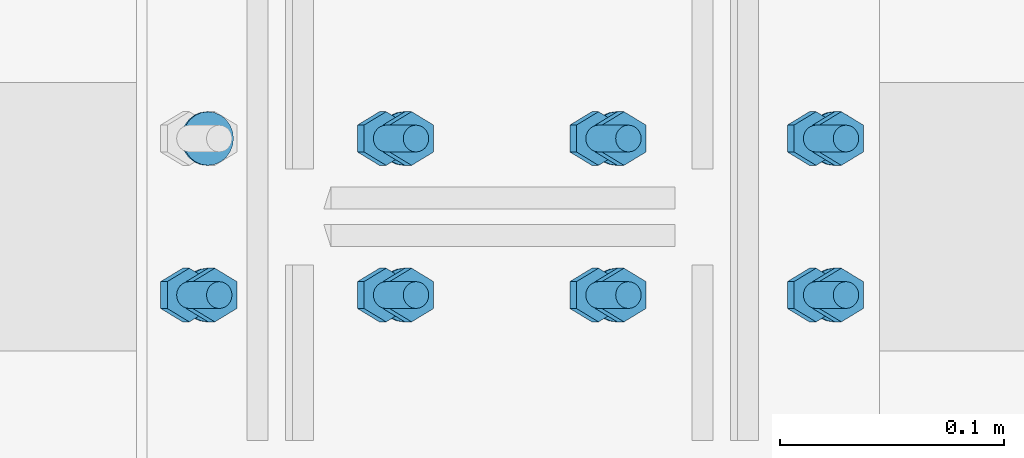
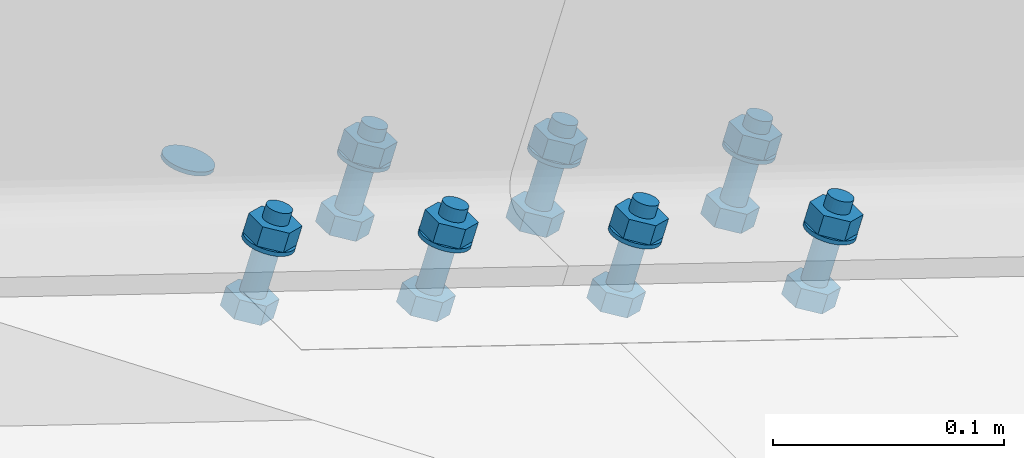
# One storey, part 32 of 53: 29 mechanical fasteners.
"""IFC4 building model written with IfcOpenShell, lengths in metres."""

from ifc_helpers import new_model, si_unit, frame, origin_with_axes, place, context, project, spatial, polyline, outline, extrude, type_object, element, save


model = new_model("IFC4")

# Units and contexts
model_context = context("Model", 3, precision=1e-05, world=origin_with_axes())
ifc_project = project(units=[si_unit("LENGTHUNIT", "METRE"), si_unit("AREAUNIT", "SQUARE_METRE"), si_unit("VOLUMEUNIT", "CUBIC_METRE"), si_unit("MASSUNIT", "GRAM", prefix="KILO"), si_unit("TIMEUNIT", "SECOND"), si_unit("PLANEANGLEUNIT", "RADIAN"), si_unit("SOLIDANGLEUNIT", "STERADIAN"), si_unit("THERMODYNAMICTEMPERATUREUNIT", "DEGREE_CELSIUS")], contexts=[model_context])

# Site, building, storey
placement_1 = place(None, origin_with_axes())
site = spatial("IfcSite", under=ifc_project, at=placement_1, Name="Italia", CompositionType="ELEMENT")
building = spatial("IfcBuilding", under=site, at=placement_1, Name="Capannone", CompositionType="ELEMENT")
storey_placement = place(None, frame((0.0, 0.0, 5.550000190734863), z_axis=(0.0, 0.0, 1.0), x_axis=(1.0, 0.0, 0.0)))
storey = spatial("IfcBuildingStorey", under=building, at=storey_placement, Name="Storey 1", CompositionType="ELEMENT", Elevation=5.550000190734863)

# Mechanical fasteners
mechanical_fastener_type_1 = type_object("IfcMechanicalFastenerType", Name="Collegamenti 0102_0002 0104_0004 0106_0006 0108_0008 0110_0010 0112_0012", PredefinedType="BOLT")
placement_2 = place(placement_1, origin_with_axes())
mechanical_fastener_1_placement = place(placement_2, origin_with_axes())
element("IfcMechanicalFastener", 1, at=mechanical_fastener_1_placement, inside=storey, type_object=mechanical_fastener_type_1, Name="Collegamenti 0102_0002 0104_0004 0106_0006 0108_0008 0110_0010 0112_0012", NominalDiameter=0.024, context=model_context, shape_type="SweptSolid", body=[
    extrude(outline(polyline([(0.0, 0.0), (-0.000409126, -0.00310612), (-0.00160789, -0.00600052), (-0.00351477, -0.00848484), (-0.00600004, -0.0103931), (-0.00889444, -0.011591), (-0.0120001, -0.0120001), (-0.0151057, -0.011591), (-0.0180001, -0.0103931), (-0.0204854, -0.00848484), (-0.0223923, -0.00600052), (-0.023591, -0.00310612), (-0.0240002, 0.0), (-0.023591, 0.00310516), (-0.0223923, 0.00599957), (-0.0204854, 0.00848484), (-0.0180001, 0.0103922), (-0.0151057, 0.01159), (-0.0120001, 0.0119991), (-0.00889444, 0.01159), (-0.00600004, 0.0103922), (-0.00351477, 0.00848484), (-0.00160789, 0.00599957), (-0.000409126, 0.00310516), (0.0, 0.0)])), frame((13.8682, 6.023, 5.60572), z_axis=(-0.312362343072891, 0.0, -0.94996303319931), x_axis=(0.0, -1.0, 0.0)), (0.0, 0.0, 1.0), 0.00199978),
])
mechanical_fastener_type_2 = type_object("IfcMechanicalFastenerType", Name="Collegamenti 0102_0002 0104_0004 0106_0006 0108_0008 0110_0010 0112_0012", PredefinedType="BOLT")
mechanical_fastener_2_placement = place(placement_2, origin_with_axes())
element("IfcMechanicalFastener", 2, at=mechanical_fastener_2_placement, inside=storey, type_object=mechanical_fastener_type_2, Name="Collegamenti 0102_0002 0104_0004 0106_0006 0108_0008 0110_0010 0112_0012", NominalDiameter=0.0120001, context=model_context, shape_type="SweptSolid", body=[
    extrude(outline(polyline([(0.0, 0.0), (-0.0120001, 0.0), (-0.0180001, 0.0103931), (-0.0120001, 0.0207853), (0.0, 0.0207853), (0.00600004, 0.0103931), (0.0, 0.0)])), frame((13.8697, 5.959, 5.57702), z_axis=(-0.312231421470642, 0.0, -0.950006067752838), x_axis=(0.0, -1.0, 0.0)), (0.0, 0.0, 1.0), 0.00959993),
])
mechanical_fastener_type_3 = type_object("IfcMechanicalFastenerType", Name="Collegamenti 0102_0002 0104_0004 0106_0006 0108_0008 0110_0010 0112_0012", PredefinedType="BOLT")
mechanical_fastener_3_placement = place(placement_2, origin_with_axes())
element("IfcMechanicalFastener", 3, at=mechanical_fastener_3_placement, inside=storey, type_object=mechanical_fastener_type_3, Name="Collegamenti 0102_0002 0104_0004 0106_0006 0108_0008 0110_0010 0112_0012", NominalDiameter=0.012, context=model_context, shape_type="SweptSolid", body=[
    extrude(outline(polyline([(0.0, 0.0), (-0.000204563, -0.00155354), (-0.000803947, -0.00300121), (-0.00175762, -0.0042429), (-0.00300026, -0.00519562), (-0.00444698, -0.00579548), (-0.00600004, -0.00599957), (-0.0075531, -0.00579548), (-0.00899982, -0.00519562), (-0.0102425, -0.0042429), (-0.0111961, -0.00300121), (-0.0117955, -0.00155354), (-0.0120001, 0.0), (-0.0117955, 0.00155258), (-0.0111961, 0.00300026), (-0.0102425, 0.00424194), (-0.00899982, 0.00519562), (-0.0075531, 0.00579548), (-0.00600004, 0.00599957), (-0.00444698, 0.00579548), (-0.00300026, 0.00519562), (-0.00175762, 0.00424194), (-0.000803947, 0.00300026), (-0.000204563, 0.00155258), (0.0, 0.0)])), frame((13.8732, 5.959, 5.62092), z_axis=(-0.312153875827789, 0.0, -0.950031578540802), x_axis=(0.0, -1.0, 0.0)), (0.0, 0.0, 1.0), 0.0427995),
])
mechanical_fastener_type_4 = type_object("IfcMechanicalFastenerType", Name="Collegamenti 0102_0002 0104_0004 0106_0006 0108_0008 0110_0010 0112_0012", PredefinedType="BOLT")
mechanical_fastener_4_placement = place(placement_2, origin_with_axes())
element("IfcMechanicalFastener", 4, at=mechanical_fastener_4_placement, inside=storey, type_object=mechanical_fastener_type_4, Name="Collegamenti 0102_0002 0104_0004 0106_0006 0108_0008 0110_0010 0112_0012", NominalDiameter=0.0119995, context=model_context, shape_type="SweptSolid", body=[
    extrude(outline(polyline([(0.0, 0.0), (-0.0120001, 0.0), (-0.0180001, 0.0103922), (-0.0120001, 0.0207844), (0.0, 0.0207844), (0.00600004, 0.0103922), (0.0, 0.0)])), frame((13.8811, 5.959, 5.6116), z_axis=(-0.312141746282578, 0.0, -0.950035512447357), x_axis=(0.0, -1.0, 0.0)), (0.0, 0.0, 1.0), 0.00959963),
])
mechanical_fastener_type_5 = type_object("IfcMechanicalFastenerType", Name="Collegamenti 0102_0002 0104_0004 0106_0006 0108_0008 0110_0010 0112_0012", PredefinedType="BOLT")
mechanical_fastener_5_placement = place(placement_2, origin_with_axes())
element("IfcMechanicalFastener", 5, at=mechanical_fastener_5_placement, inside=storey, type_object=mechanical_fastener_type_5, Name="Collegamenti 0102_0002 0104_0004 0106_0006 0108_0008 0110_0010 0112_0012", NominalDiameter=0.024, context=model_context, shape_type="SweptSolid", body=[
    extrude(outline(polyline([(0.0, 0.0), (-0.000409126, -0.00310612), (-0.00160789, -0.00600052), (-0.00351477, -0.00848484), (-0.00600004, -0.0103931), (-0.00889444, -0.011591), (-0.0120001, -0.0120001), (-0.0151057, -0.011591), (-0.0180001, -0.0103931), (-0.0204854, -0.00848484), (-0.0223923, -0.00600052), (-0.023591, -0.00310612), (-0.0240002, 0.0), (-0.023591, 0.00310516), (-0.0223923, 0.00599957), (-0.0204854, 0.00848484), (-0.0180001, 0.0103922), (-0.0151057, 0.01159), (-0.0120001, 0.0119991), (-0.00889444, 0.01159), (-0.00600004, 0.0103922), (-0.00351477, 0.00848484), (-0.00160789, 0.00599957), (-0.000409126, 0.00310516), (0.0, 0.0)])), frame((13.8682, 5.953, 5.60572), z_axis=(-0.312362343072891, 0.0, -0.94996303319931), x_axis=(0.0, -1.0, 0.0)), (0.0, 0.0, 1.0), 0.00199978),
])
mechanical_fastener_type_6 = type_object("IfcMechanicalFastenerType", Name="Collegamenti 0102_0002 0104_0004 0106_0006 0108_0008 0110_0010 0112_0012", PredefinedType="BOLT")
mechanical_fastener_6_placement = place(placement_2, origin_with_axes())
element("IfcMechanicalFastener", 6, at=mechanical_fastener_6_placement, inside=storey, type_object=mechanical_fastener_type_6, Name="Collegamenti 0102_0002 0104_0004 0106_0006 0108_0008 0110_0010 0112_0012", NominalDiameter=0.0119995, context=model_context, shape_type="SweptSolid", body=[
    extrude(outline(polyline([(0.0, 0.0), (-0.0120001, 0.0), (-0.0180001, 0.0103931), (-0.0120001, 0.0207844), (0.0, 0.0207844), (0.00600004, 0.0103931), (0.0, 0.0)])), frame((14.0527, 6.029, 5.5169), z_axis=(-0.312127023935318, 0.0, -0.950040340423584), x_axis=(0.0, -1.0, 0.0)), (0.0, 0.0, 1.0), 0.00960008),
])
mechanical_fastener_type_7 = type_object("IfcMechanicalFastenerType", Name="Collegamenti 0102_0002 0104_0004 0106_0006 0108_0008 0110_0010 0112_0012", PredefinedType="BOLT")
mechanical_fastener_7_placement = place(placement_2, origin_with_axes())
element("IfcMechanicalFastener", 7, at=mechanical_fastener_7_placement, inside=storey, type_object=mechanical_fastener_type_7, Name="Collegamenti 0102_0002 0104_0004 0106_0006 0108_0008 0110_0010 0112_0012", NominalDiameter=0.012, context=model_context, shape_type="SweptSolid", body=[
    extrude(outline(polyline([(0.0, 0.0), (-0.000204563, -0.00155258), (-0.000803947, -0.00300026), (-0.00175762, -0.00424194), (-0.00300026, -0.00519562), (-0.00444698, -0.00579453), (-0.00600004, -0.00599957), (-0.0075531, -0.00579453), (-0.00899982, -0.00519562), (-0.0102425, -0.00424194), (-0.0111961, -0.00300026), (-0.0117955, -0.00155258), (-0.0120001, 0.0), (-0.0117955, 0.00155354), (-0.0111961, 0.00300026), (-0.0102425, 0.00424194), (-0.00899982, 0.00519657), (-0.0075531, 0.00579548), (-0.00600004, 0.00600052), (-0.00444698, 0.00579548), (-0.00300026, 0.00519657), (-0.00175762, 0.00424194), (-0.000803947, 0.00300026), (-0.000204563, 0.00155354), (0.0, 0.0)])), frame((14.0562, 6.029, 5.5608), z_axis=(-0.312150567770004, 0.0, -0.950032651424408), x_axis=(0.0, -1.0, 0.0)), (0.0, 0.0, 1.0), 0.0427999),
])
mechanical_fastener_type_8 = type_object("IfcMechanicalFastenerType", Name="Collegamenti 0102_0002 0104_0004 0106_0006 0108_0008 0110_0010 0112_0012", PredefinedType="BOLT")
mechanical_fastener_8_placement = place(placement_2, origin_with_axes())
element("IfcMechanicalFastener", 8, at=mechanical_fastener_8_placement, inside=storey, type_object=mechanical_fastener_type_8, Name="Collegamenti 0102_0002 0104_0004 0106_0006 0108_0008 0110_0010 0112_0012", NominalDiameter=0.0119995, context=model_context, shape_type="SweptSolid", body=[
    extrude(outline(polyline([(0.0, 0.0), (-0.0120001, 0.0), (-0.0180001, 0.0103912), (-0.0120001, 0.0207834), (0.0, 0.0207834), (0.00600004, 0.0103912), (0.0, 0.0)])), frame((14.0641, 6.029, 5.55148), z_axis=(-0.312127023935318, 0.0, -0.950040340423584), x_axis=(0.0, -1.0, 0.0)), (0.0, 0.0, 1.0), 0.00960008),
])
mechanical_fastener_type_9 = type_object("IfcMechanicalFastenerType", Name="Collegamenti 0102_0002 0104_0004 0106_0006 0108_0008 0110_0010 0112_0012", PredefinedType="BOLT")
mechanical_fastener_9_placement = place(placement_2, origin_with_axes())
element("IfcMechanicalFastener", 9, at=mechanical_fastener_9_placement, inside=storey, type_object=mechanical_fastener_type_9, Name="Collegamenti 0102_0002 0104_0004 0106_0006 0108_0008 0110_0010 0112_0012", NominalDiameter=0.024, context=model_context, shape_type="SweptSolid", body=[
    extrude(outline(polyline([(0.0, 0.0), (-0.000409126, -0.00310516), (-0.00160789, -0.00599957), (-0.00351477, -0.00848579), (-0.00600004, -0.0103912), (-0.00889444, -0.011591), (-0.0120001, -0.0119991), (-0.0151057, -0.011591), (-0.0180001, -0.0103912), (-0.0204854, -0.00848579), (-0.0223923, -0.00599957), (-0.023591, -0.00310516), (-0.0240002, 0.0), (-0.023591, 0.00310612), (-0.0223923, 0.00600052), (-0.0204854, 0.00848675), (-0.0180001, 0.0103922), (-0.0151057, 0.011591), (-0.0120001, 0.0120001), (-0.00889444, 0.011591), (-0.00600004, 0.0103922), (-0.00351477, 0.00848675), (-0.00160789, 0.00600052), (-0.000409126, 0.00310612), (0.0, 0.0)])), frame((14.0512, 6.023, 5.5456), z_axis=(-0.311931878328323, 0.0, -0.950104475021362), x_axis=(0.0, -1.0, 0.0)), (0.0, 0.0, 1.0), 0.00199948),
])
mechanical_fastener_type_10 = type_object("IfcMechanicalFastenerType", Name="Collegamenti 0102_0002 0104_0004 0106_0006 0108_0008 0110_0010 0112_0012", PredefinedType="BOLT")
mechanical_fastener_10_placement = place(placement_2, origin_with_axes())
element("IfcMechanicalFastener", 10, at=mechanical_fastener_10_placement, inside=storey, type_object=mechanical_fastener_type_10, Name="Collegamenti 0102_0002 0104_0004 0106_0006 0108_0008 0110_0010 0112_0012", NominalDiameter=0.0119995, context=model_context, shape_type="SweptSolid", body=[
    extrude(outline(polyline([(0.0, 0.0), (-0.0120001, 0.0), (-0.0180001, 0.0103931), (-0.0120001, 0.0207844), (0.0, 0.0207844), (0.00600004, 0.0103931), (0.0, 0.0)])), frame((14.0527, 5.959, 5.5169), z_axis=(-0.312127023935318, 0.0, -0.950040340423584), x_axis=(0.0, -1.0, 0.0)), (0.0, 0.0, 1.0), 0.00960008),
])
mechanical_fastener_type_11 = type_object("IfcMechanicalFastenerType", Name="Collegamenti 0102_0002 0104_0004 0106_0006 0108_0008 0110_0010 0112_0012", PredefinedType="BOLT")
mechanical_fastener_11_placement = place(placement_2, origin_with_axes())
element("IfcMechanicalFastener", 11, at=mechanical_fastener_11_placement, inside=storey, type_object=mechanical_fastener_type_11, Name="Collegamenti 0102_0002 0104_0004 0106_0006 0108_0008 0110_0010 0112_0012", NominalDiameter=0.012, context=model_context, shape_type="SweptSolid", body=[
    extrude(outline(polyline([(0.0, 0.0), (-0.000204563, -0.00155258), (-0.000803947, -0.00300026), (-0.00175762, -0.00424194), (-0.00300026, -0.00519562), (-0.00444698, -0.00579453), (-0.00600004, -0.00599957), (-0.0075531, -0.00579453), (-0.00899982, -0.00519562), (-0.0102425, -0.00424194), (-0.0111961, -0.00300026), (-0.0117955, -0.00155258), (-0.0120001, 0.0), (-0.0117955, 0.00155354), (-0.0111961, 0.00300026), (-0.0102425, 0.00424194), (-0.00899982, 0.00519657), (-0.0075531, 0.00579548), (-0.00600004, 0.00600052), (-0.00444698, 0.00579548), (-0.00300026, 0.00519657), (-0.00175762, 0.00424194), (-0.000803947, 0.00300026), (-0.000204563, 0.00155354), (0.0, 0.0)])), frame((14.0562, 5.959, 5.5608), z_axis=(-0.312150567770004, 0.0, -0.950032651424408), x_axis=(0.0, -1.0, 0.0)), (0.0, 0.0, 1.0), 0.0427999),
])
mechanical_fastener_type_12 = type_object("IfcMechanicalFastenerType", Name="Collegamenti 0102_0002 0104_0004 0106_0006 0108_0008 0110_0010 0112_0012", PredefinedType="BOLT")
mechanical_fastener_12_placement = place(placement_2, origin_with_axes())
element("IfcMechanicalFastener", 12, at=mechanical_fastener_12_placement, inside=storey, type_object=mechanical_fastener_type_12, Name="Collegamenti 0102_0002 0104_0004 0106_0006 0108_0008 0110_0010 0112_0012", NominalDiameter=0.0119995, context=model_context, shape_type="SweptSolid", body=[
    extrude(outline(polyline([(0.0, 0.0), (-0.0120001, 0.0), (-0.0180001, 0.0103912), (-0.0120001, 0.0207834), (0.0, 0.0207834), (0.00600004, 0.0103912), (0.0, 0.0)])), frame((14.0641, 5.959, 5.55148), z_axis=(-0.312127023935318, 0.0, -0.950040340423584), x_axis=(0.0, -1.0, 0.0)), (0.0, 0.0, 1.0), 0.00960008),
])
mechanical_fastener_type_13 = type_object("IfcMechanicalFastenerType", Name="Collegamenti 0102_0002 0104_0004 0106_0006 0108_0008 0110_0010 0112_0012", PredefinedType="BOLT")
mechanical_fastener_13_placement = place(placement_2, origin_with_axes())
element("IfcMechanicalFastener", 13, at=mechanical_fastener_13_placement, inside=storey, type_object=mechanical_fastener_type_13, Name="Collegamenti 0102_0002 0104_0004 0106_0006 0108_0008 0110_0010 0112_0012", NominalDiameter=0.024, context=model_context, shape_type="SweptSolid", body=[
    extrude(outline(polyline([(0.0, 0.0), (-0.000409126, -0.00310516), (-0.00160789, -0.00599957), (-0.00351477, -0.00848579), (-0.00600004, -0.0103912), (-0.00889444, -0.011591), (-0.0120001, -0.0119991), (-0.0151057, -0.011591), (-0.0180001, -0.0103912), (-0.0204854, -0.00848579), (-0.0223923, -0.00599957), (-0.023591, -0.00310516), (-0.0240002, 0.0), (-0.023591, 0.00310612), (-0.0223923, 0.00600052), (-0.0204854, 0.00848675), (-0.0180001, 0.0103922), (-0.0151057, 0.011591), (-0.0120001, 0.0120001), (-0.00889444, 0.011591), (-0.00600004, 0.0103922), (-0.00351477, 0.00848675), (-0.00160789, 0.00600052), (-0.000409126, 0.00310612), (0.0, 0.0)])), frame((14.0512, 5.953, 5.5456), z_axis=(-0.311931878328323, 0.0, -0.950104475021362), x_axis=(0.0, -1.0, 0.0)), (0.0, 0.0, 1.0), 0.00199948),
])
mechanical_fastener_type_14 = type_object("IfcMechanicalFastenerType", Name="Collegamenti 0102_0002 0104_0004 0106_0006 0108_0008 0110_0010 0112_0012", PredefinedType="BOLT")
mechanical_fastener_14_placement = place(placement_2, origin_with_axes())
element("IfcMechanicalFastener", 14, at=mechanical_fastener_14_placement, inside=storey, type_object=mechanical_fastener_type_14, Name="Collegamenti 0102_0002 0104_0004 0106_0006 0108_0008 0110_0010 0112_0012", NominalDiameter=0.0119997, context=model_context, shape_type="SweptSolid", body=[
    extrude(outline(polyline([(0.0, 0.0), (-0.0120001, 0.0), (-0.0180001, 0.0103931), (-0.0120001, 0.0207853), (0.0, 0.0207853), (0.00600004, 0.0103931), (0.0, 0.0)])), frame((13.9577, 6.029, 5.54811), z_axis=(-0.312141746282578, 0.0, -0.950035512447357), x_axis=(0.0, -1.0, 0.0)), (0.0, 0.0, 1.0), 0.00959963),
])
mechanical_fastener_type_15 = type_object("IfcMechanicalFastenerType", Name="Collegamenti 0102_0002 0104_0004 0106_0006 0108_0008 0110_0010 0112_0012", PredefinedType="BOLT")
mechanical_fastener_15_placement = place(placement_2, origin_with_axes())
element("IfcMechanicalFastener", 15, at=mechanical_fastener_15_placement, inside=storey, type_object=mechanical_fastener_type_15, Name="Collegamenti 0102_0002 0104_0004 0106_0006 0108_0008 0110_0010 0112_0012", NominalDiameter=0.012, context=model_context, shape_type="SweptSolid", body=[
    extrude(outline(polyline([(0.0, 0.0), (-0.000204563, -0.00155354), (-0.000803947, -0.00300121), (-0.00175762, -0.00424194), (-0.00300026, -0.00519562), (-0.00444698, -0.00579453), (-0.00600004, -0.00599957), (-0.0075531, -0.00579453), (-0.00899982, -0.00519562), (-0.0102425, -0.00424194), (-0.0111961, -0.00300121), (-0.0117955, -0.00155354), (-0.0120001, 0.0), (-0.0117955, 0.00155354), (-0.0111961, 0.00300026), (-0.0102425, 0.00424194), (-0.00899982, 0.00519657), (-0.0075531, 0.00579548), (-0.00600004, 0.00599957), (-0.00444698, 0.00579548), (-0.00300026, 0.00519657), (-0.00175762, 0.00424194), (-0.000803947, 0.00300026), (-0.000204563, 0.00155354), (0.0, 0.0)])), frame((13.9612, 6.029, 5.59202), z_axis=(-0.312147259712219, 0.0, -0.950033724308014), x_axis=(0.0, -1.0, 0.0)), (0.0, 0.0, 1.0), 0.0428004),
])
mechanical_fastener_type_16 = type_object("IfcMechanicalFastenerType", Name="Collegamenti 0102_0002 0104_0004 0106_0006 0108_0008 0110_0010 0112_0012", PredefinedType="BOLT")
mechanical_fastener_16_placement = place(placement_2, origin_with_axes())
element("IfcMechanicalFastener", 16, at=mechanical_fastener_16_placement, inside=storey, type_object=mechanical_fastener_type_16, Name="Collegamenti 0102_0002 0104_0004 0106_0006 0108_0008 0110_0010 0112_0012", NominalDiameter=0.0119995, context=model_context, shape_type="SweptSolid", body=[
    extrude(outline(polyline([(0.0, 0.0), (-0.0120001, 0.0), (-0.0180001, 0.0103922), (-0.0120001, 0.0207844), (0.0, 0.0207844), (0.00600004, 0.0103922), (0.0, 0.0)])), frame((13.9691, 6.029, 5.5827), z_axis=(-0.312127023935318, 0.0, -0.950040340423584), x_axis=(0.0, -1.0, 0.0)), (0.0, 0.0, 1.0), 0.00960008),
])
mechanical_fastener_type_17 = type_object("IfcMechanicalFastenerType", Name="Collegamenti 0102_0002 0104_0004 0106_0006 0108_0008 0110_0010 0112_0012", PredefinedType="BOLT")
mechanical_fastener_17_placement = place(placement_2, origin_with_axes())
element("IfcMechanicalFastener", 17, at=mechanical_fastener_17_placement, inside=storey, type_object=mechanical_fastener_type_17, Name="Collegamenti 0102_0002 0104_0004 0106_0006 0108_0008 0110_0010 0112_0012", NominalDiameter=0.024, context=model_context, shape_type="SweptSolid", body=[
    extrude(outline(polyline([(0.0, 0.0), (-0.000409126, -0.00310516), (-0.00160789, -0.00600052), (-0.00351477, -0.00848484), (-0.00600004, -0.0103931), (-0.00889444, -0.011591), (-0.0120001, -0.0120001), (-0.0151057, -0.011591), (-0.0180001, -0.0103931), (-0.0204854, -0.00848484), (-0.0223923, -0.00600052), (-0.023591, -0.00310516), (-0.0240002, 0.0), (-0.023591, 0.00310516), (-0.0223923, 0.00599957), (-0.0204854, 0.00848579), (-0.0180001, 0.0103922), (-0.0151057, 0.011591), (-0.0120001, 0.0120001), (-0.00889444, 0.011591), (-0.00600004, 0.0103922), (-0.00351477, 0.00848579), (-0.00160789, 0.00599957), (-0.000409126, 0.00310516), (0.0, 0.0)])), frame((13.9562, 6.023, 5.57682), z_axis=(-0.311790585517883, 0.0, -0.950150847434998), x_axis=(0.0, -1.0, 0.0)), (0.0, 0.0, 1.0), 0.00200039),
])
mechanical_fastener_type_18 = type_object("IfcMechanicalFastenerType", Name="Collegamenti 0102_0002 0104_0004 0106_0006 0108_0008 0110_0010 0112_0012", PredefinedType="BOLT")
mechanical_fastener_18_placement = place(placement_2, origin_with_axes())
element("IfcMechanicalFastener", 18, at=mechanical_fastener_18_placement, inside=storey, type_object=mechanical_fastener_type_18, Name="Collegamenti 0102_0002 0104_0004 0106_0006 0108_0008 0110_0010 0112_0012", NominalDiameter=0.0119997, context=model_context, shape_type="SweptSolid", body=[
    extrude(outline(polyline([(0.0, 0.0), (-0.0120001, 0.0), (-0.0180001, 0.0103931), (-0.0120001, 0.0207853), (0.0, 0.0207853), (0.00600004, 0.0103931), (0.0, 0.0)])), frame((13.9577, 5.959, 5.54811), z_axis=(-0.312141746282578, 0.0, -0.950035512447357), x_axis=(0.0, -1.0, 0.0)), (0.0, 0.0, 1.0), 0.00959963),
])
mechanical_fastener_type_19 = type_object("IfcMechanicalFastenerType", Name="Collegamenti 0102_0002 0104_0004 0106_0006 0108_0008 0110_0010 0112_0012", PredefinedType="BOLT")
mechanical_fastener_19_placement = place(placement_2, origin_with_axes())
element("IfcMechanicalFastener", 19, at=mechanical_fastener_19_placement, inside=storey, type_object=mechanical_fastener_type_19, Name="Collegamenti 0102_0002 0104_0004 0106_0006 0108_0008 0110_0010 0112_0012", NominalDiameter=0.012, context=model_context, shape_type="SweptSolid", body=[
    extrude(outline(polyline([(0.0, 0.0), (-0.000204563, -0.00155354), (-0.000803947, -0.00300121), (-0.00175762, -0.00424194), (-0.00300026, -0.00519562), (-0.00444698, -0.00579453), (-0.00600004, -0.00599957), (-0.0075531, -0.00579453), (-0.00899982, -0.00519562), (-0.0102425, -0.00424194), (-0.0111961, -0.00300121), (-0.0117955, -0.00155354), (-0.0120001, 0.0), (-0.0117955, 0.00155354), (-0.0111961, 0.00300026), (-0.0102425, 0.00424194), (-0.00899982, 0.00519657), (-0.0075531, 0.00579548), (-0.00600004, 0.00599957), (-0.00444698, 0.00579548), (-0.00300026, 0.00519657), (-0.00175762, 0.00424194), (-0.000803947, 0.00300026), (-0.000204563, 0.00155354), (0.0, 0.0)])), frame((13.9612, 5.959, 5.59202), z_axis=(-0.312147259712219, 0.0, -0.950033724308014), x_axis=(0.0, -1.0, 0.0)), (0.0, 0.0, 1.0), 0.0428004),
])
mechanical_fastener_type_20 = type_object("IfcMechanicalFastenerType", Name="Collegamenti 0102_0002 0104_0004 0106_0006 0108_0008 0110_0010 0112_0012", PredefinedType="BOLT")
mechanical_fastener_20_placement = place(placement_2, origin_with_axes())
element("IfcMechanicalFastener", 20, at=mechanical_fastener_20_placement, inside=storey, type_object=mechanical_fastener_type_20, Name="Collegamenti 0102_0002 0104_0004 0106_0006 0108_0008 0110_0010 0112_0012", NominalDiameter=0.0119995, context=model_context, shape_type="SweptSolid", body=[
    extrude(outline(polyline([(0.0, 0.0), (-0.0120001, 0.0), (-0.0180001, 0.0103922), (-0.0120001, 0.0207844), (0.0, 0.0207844), (0.00600004, 0.0103922), (0.0, 0.0)])), frame((13.9691, 5.959, 5.5827), z_axis=(-0.312127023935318, 0.0, -0.950040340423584), x_axis=(0.0, -1.0, 0.0)), (0.0, 0.0, 1.0), 0.00960008),
])
mechanical_fastener_type_21 = type_object("IfcMechanicalFastenerType", Name="Collegamenti 0102_0002 0104_0004 0106_0006 0108_0008 0110_0010 0112_0012", PredefinedType="BOLT")
mechanical_fastener_21_placement = place(placement_2, origin_with_axes())
element("IfcMechanicalFastener", 21, at=mechanical_fastener_21_placement, inside=storey, type_object=mechanical_fastener_type_21, Name="Collegamenti 0102_0002 0104_0004 0106_0006 0108_0008 0110_0010 0112_0012", NominalDiameter=0.024, context=model_context, shape_type="SweptSolid", body=[
    extrude(outline(polyline([(0.0, 0.0), (-0.000409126, -0.00310516), (-0.00160789, -0.00600052), (-0.00351477, -0.00848484), (-0.00600004, -0.0103931), (-0.00889444, -0.011591), (-0.0120001, -0.0120001), (-0.0151057, -0.011591), (-0.0180001, -0.0103931), (-0.0204854, -0.00848484), (-0.0223923, -0.00600052), (-0.023591, -0.00310516), (-0.0240002, 0.0), (-0.023591, 0.00310516), (-0.0223923, 0.00599957), (-0.0204854, 0.00848579), (-0.0180001, 0.0103922), (-0.0151057, 0.011591), (-0.0120001, 0.0120001), (-0.00889444, 0.011591), (-0.00600004, 0.0103922), (-0.00351477, 0.00848579), (-0.00160789, 0.00599957), (-0.000409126, 0.00310516), (0.0, 0.0)])), frame((13.9562, 5.953, 5.57682), z_axis=(-0.311790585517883, 0.0, -0.950150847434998), x_axis=(0.0, -1.0, 0.0)), (0.0, 0.0, 1.0), 0.00200039),
])
mechanical_fastener_type_22 = type_object("IfcMechanicalFastenerType", Name="Collegamenti 0102_0002 0104_0004 0106_0006 0108_0008 0110_0010 0112_0012", PredefinedType="BOLT")
mechanical_fastener_22_placement = place(placement_2, origin_with_axes())
element("IfcMechanicalFastener", 22, at=mechanical_fastener_22_placement, inside=storey, type_object=mechanical_fastener_type_22, Name="Collegamenti 0102_0002 0104_0004 0106_0006 0108_0008 0110_0010 0112_0012", NominalDiameter=0.0120001, context=model_context, shape_type="SweptSolid", body=[
    extrude(outline(polyline([(0.0, 0.0), (-0.0120001, 0.0), (-0.0180001, 0.0103922), (-0.0120001, 0.0207853), (0.0, 0.0207853), (0.00600004, 0.0103922), (0.0, 0.0)])), frame((14.15, 6.029, 5.48493), z_axis=(-0.312216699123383, 0.0, -0.950010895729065), x_axis=(0.0, -1.0, 0.0)), (0.0, 0.0, 1.0), 0.00960038),
])
mechanical_fastener_type_23 = type_object("IfcMechanicalFastenerType", Name="Collegamenti 0102_0002 0104_0004 0106_0006 0108_0008 0110_0010 0112_0012", PredefinedType="BOLT")
mechanical_fastener_23_placement = place(placement_2, origin_with_axes())
element("IfcMechanicalFastener", 23, at=mechanical_fastener_23_placement, inside=storey, type_object=mechanical_fastener_type_23, Name="Collegamenti 0102_0002 0104_0004 0106_0006 0108_0008 0110_0010 0112_0012", NominalDiameter=0.012, context=model_context, shape_type="SweptSolid", body=[
    extrude(outline(polyline([(0.0, 0.0), (-0.000204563, -0.00155163), (-0.000803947, -0.00299931), (-0.00175762, -0.00424099), (-0.00300026, -0.00519562), (-0.00444698, -0.00579453), (-0.00600004, -0.00599957), (-0.0075531, -0.00579453), (-0.00899982, -0.00519562), (-0.0102425, -0.00424099), (-0.0111961, -0.00299931), (-0.0117955, -0.00155163), (-0.0120001, 0.0), (-0.0117955, 0.00155354), (-0.0111961, 0.00300121), (-0.0102425, 0.0042429), (-0.00899982, 0.00519657), (-0.0075531, 0.00579548), (-0.00600004, 0.00600052), (-0.00444698, 0.00579548), (-0.00300026, 0.00519657), (-0.00175762, 0.0042429), (-0.000803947, 0.00300121), (-0.000204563, 0.00155354), (0.0, 0.0)])), frame((14.1535, 6.029, 5.52884), z_axis=(-0.312150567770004, 0.0, -0.950032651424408), x_axis=(0.0, -1.0, 0.0)), (0.0, 0.0, 1.0), 0.0427999),
])
mechanical_fastener_type_24 = type_object("IfcMechanicalFastenerType", Name="Collegamenti 0102_0002 0104_0004 0106_0006 0108_0008 0110_0010 0112_0012", PredefinedType="BOLT")
mechanical_fastener_24_placement = place(placement_2, origin_with_axes())
element("IfcMechanicalFastener", 24, at=mechanical_fastener_24_placement, inside=storey, type_object=mechanical_fastener_type_24, Name="Collegamenti 0102_0002 0104_0004 0106_0006 0108_0008 0110_0010 0112_0012", NominalDiameter=0.0119995, context=model_context, shape_type="SweptSolid", body=[
    extrude(outline(polyline([(0.0, 0.0), (-0.0120001, 0.0), (-0.0180001, 0.0103931), (-0.0120001, 0.0207853), (0.0, 0.0207853), (0.00600004, 0.0103931), (0.0, 0.0)])), frame((14.1613, 6.029, 5.51952), z_axis=(-0.312127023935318, 0.0, -0.950040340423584), x_axis=(0.0, -1.0, 0.0)), (0.0, 0.0, 1.0), 0.00960008),
])
mechanical_fastener_type_25 = type_object("IfcMechanicalFastenerType", Name="Collegamenti 0102_0002 0104_0004 0106_0006 0108_0008 0110_0010 0112_0012", PredefinedType="BOLT")
mechanical_fastener_25_placement = place(placement_2, origin_with_axes())
element("IfcMechanicalFastener", 25, at=mechanical_fastener_25_placement, inside=storey, type_object=mechanical_fastener_type_25, Name="Collegamenti 0102_0002 0104_0004 0106_0006 0108_0008 0110_0010 0112_0012", NominalDiameter=0.024, context=model_context, shape_type="SweptSolid", body=[
    extrude(outline(polyline([(0.0, 0.0), (-0.000409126, -0.00310612), (-0.00160789, -0.00600052), (-0.00351477, -0.00848484), (-0.00600004, -0.0103922), (-0.00889444, -0.011591), (-0.0120001, -0.0120001), (-0.0151057, -0.011591), (-0.0180001, -0.0103922), (-0.0204854, -0.00848484), (-0.0223923, -0.00600052), (-0.023591, -0.00310612), (-0.0240002, 0.0), (-0.023591, 0.00310612), (-0.0223923, 0.00599957), (-0.0204854, 0.00848579), (-0.0180001, 0.0103922), (-0.0151057, 0.0115919), (-0.0120001, 0.0120001), (-0.00889444, 0.0115919), (-0.00600004, 0.0103922), (-0.00351477, 0.00848579), (-0.00160789, 0.00599957), (-0.000409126, 0.00310612), (0.0, 0.0)])), frame((14.1485, 6.023, 5.51364), z_axis=(-0.311790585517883, 0.0, -0.950150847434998), x_axis=(0.0, -1.0, 0.0)), (0.0, 0.0, 1.0), 0.00200039),
])
mechanical_fastener_type_26 = type_object("IfcMechanicalFastenerType", Name="Collegamenti 0102_0002 0104_0004 0106_0006 0108_0008 0110_0010 0112_0012", PredefinedType="BOLT")
mechanical_fastener_26_placement = place(placement_2, origin_with_axes())
element("IfcMechanicalFastener", 26, at=mechanical_fastener_26_placement, inside=storey, type_object=mechanical_fastener_type_26, Name="Collegamenti 0102_0002 0104_0004 0106_0006 0108_0008 0110_0010 0112_0012", NominalDiameter=0.0120001, context=model_context, shape_type="SweptSolid", body=[
    extrude(outline(polyline([(0.0, 0.0), (-0.0120001, 0.0), (-0.0180001, 0.0103922), (-0.0120001, 0.0207853), (0.0, 0.0207853), (0.00600004, 0.0103922), (0.0, 0.0)])), frame((14.15, 5.959, 5.48493), z_axis=(-0.312216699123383, 0.0, -0.950010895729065), x_axis=(0.0, -1.0, 0.0)), (0.0, 0.0, 1.0), 0.00960038),
])
mechanical_fastener_type_27 = type_object("IfcMechanicalFastenerType", Name="Collegamenti 0102_0002 0104_0004 0106_0006 0108_0008 0110_0010 0112_0012", PredefinedType="BOLT")
mechanical_fastener_27_placement = place(placement_2, origin_with_axes())
element("IfcMechanicalFastener", 27, at=mechanical_fastener_27_placement, inside=storey, type_object=mechanical_fastener_type_27, Name="Collegamenti 0102_0002 0104_0004 0106_0006 0108_0008 0110_0010 0112_0012", NominalDiameter=0.012, context=model_context, shape_type="SweptSolid", body=[
    extrude(outline(polyline([(0.0, 0.0), (-0.000204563, -0.00155163), (-0.000803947, -0.00299931), (-0.00175762, -0.00424099), (-0.00300026, -0.00519562), (-0.00444698, -0.00579453), (-0.00600004, -0.00599957), (-0.0075531, -0.00579453), (-0.00899982, -0.00519562), (-0.0102425, -0.00424099), (-0.0111961, -0.00299931), (-0.0117955, -0.00155163), (-0.0120001, 0.0), (-0.0117955, 0.00155354), (-0.0111961, 0.00300121), (-0.0102425, 0.0042429), (-0.00899982, 0.00519657), (-0.0075531, 0.00579548), (-0.00600004, 0.00600052), (-0.00444698, 0.00579548), (-0.00300026, 0.00519657), (-0.00175762, 0.0042429), (-0.000803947, 0.00300121), (-0.000204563, 0.00155354), (0.0, 0.0)])), frame((14.1535, 5.959, 5.52884), z_axis=(-0.312150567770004, 0.0, -0.950032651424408), x_axis=(0.0, -1.0, 0.0)), (0.0, 0.0, 1.0), 0.0427999),
])
mechanical_fastener_type_28 = type_object("IfcMechanicalFastenerType", Name="Collegamenti 0102_0002 0104_0004 0106_0006 0108_0008 0110_0010 0112_0012", PredefinedType="BOLT")
mechanical_fastener_28_placement = place(placement_2, origin_with_axes())
element("IfcMechanicalFastener", 28, at=mechanical_fastener_28_placement, inside=storey, type_object=mechanical_fastener_type_28, Name="Collegamenti 0102_0002 0104_0004 0106_0006 0108_0008 0110_0010 0112_0012", NominalDiameter=0.0119995, context=model_context, shape_type="SweptSolid", body=[
    extrude(outline(polyline([(0.0, 0.0), (-0.0120001, 0.0), (-0.0180001, 0.0103931), (-0.0120001, 0.0207853), (0.0, 0.0207853), (0.00600004, 0.0103931), (0.0, 0.0)])), frame((14.1613, 5.959, 5.51952), z_axis=(-0.312127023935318, 0.0, -0.950040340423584), x_axis=(0.0, -1.0, 0.0)), (0.0, 0.0, 1.0), 0.00960008),
])
mechanical_fastener_type_29 = type_object("IfcMechanicalFastenerType", Name="Collegamenti 0102_0002 0104_0004 0106_0006 0108_0008 0110_0010 0112_0012", PredefinedType="BOLT")
mechanical_fastener_29_placement = place(placement_2, origin_with_axes())
element("IfcMechanicalFastener", 29, at=mechanical_fastener_29_placement, inside=storey, type_object=mechanical_fastener_type_29, Name="Collegamenti 0102_0002 0104_0004 0106_0006 0108_0008 0110_0010 0112_0012", NominalDiameter=0.024, context=model_context, shape_type="SweptSolid", body=[
    extrude(outline(polyline([(0.0, 0.0), (-0.000409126, -0.00310612), (-0.00160789, -0.00600052), (-0.00351477, -0.00848484), (-0.00600004, -0.0103922), (-0.00889444, -0.011591), (-0.0120001, -0.0120001), (-0.0151057, -0.011591), (-0.0180001, -0.0103922), (-0.0204854, -0.00848484), (-0.0223923, -0.00600052), (-0.023591, -0.00310612), (-0.0240002, 0.0), (-0.023591, 0.00310612), (-0.0223923, 0.00599957), (-0.0204854, 0.00848579), (-0.0180001, 0.0103922), (-0.0151057, 0.0115919), (-0.0120001, 0.0120001), (-0.00889444, 0.0115919), (-0.00600004, 0.0103922), (-0.00351477, 0.00848579), (-0.00160789, 0.00599957), (-0.000409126, 0.00310612), (0.0, 0.0)])), frame((14.1485, 5.953, 5.51364), z_axis=(-0.311790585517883, 0.0, -0.950150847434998), x_axis=(0.0, -1.0, 0.0)), (0.0, 0.0, 1.0), 0.00200039),
])

save(model, "model.ifc")
